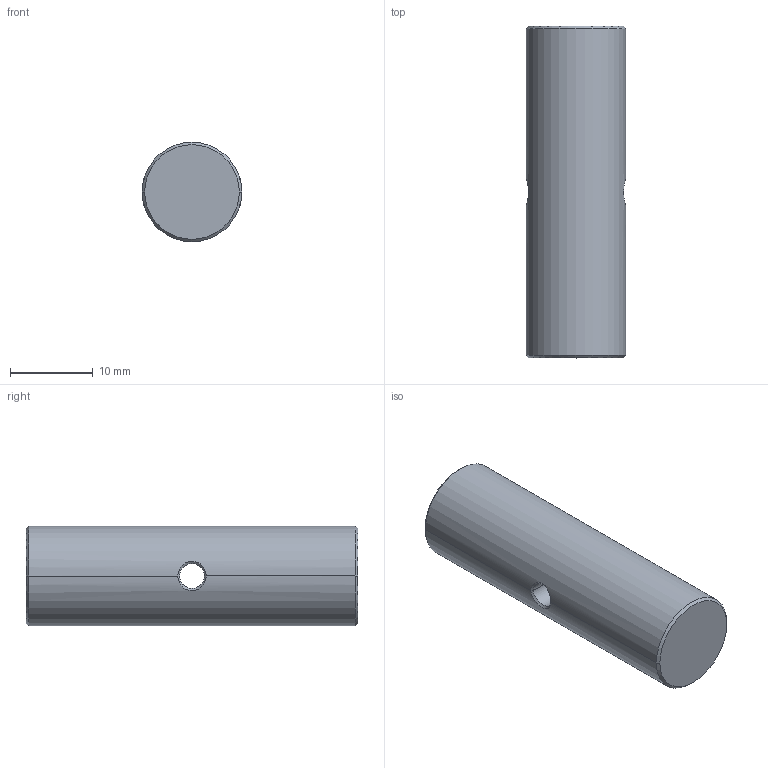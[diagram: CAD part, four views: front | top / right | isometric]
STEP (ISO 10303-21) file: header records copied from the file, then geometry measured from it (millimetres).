
FILE_DESCRIPTION((''),'2;1');
FILE_NAME('PCA40-M4','2020-12-11T',('Administrator'),(''),'CREO PARAMETRIC BY PTC INC, 2015290','CREO PARAMETRIC BY PTC INC, 2015290','');
FILE_SCHEMA(('CONFIG_CONTROL_DESIGN'));
Length unit declared in the file: millimetre
Products named in the file (1): PCA40-M4
Bounding box: 12 x 40 x 12 mm (x, y, z)
Volume: 4357.3 mm3; surface area: 1944 mm2
Topology: 1 solids, 1 shells, 47 faces, 123 edges, 75 vertices
Faces by surface type: cylinder 23, bspline 14, cone 8, plane 2
Entity records: 3502 total; most frequent: CARTESIAN_POINT 2476, ORIENTED_EDGE 242, DIRECTION 139, EDGE_CURVE 121, VERTEX_POINT 75, B_SPLINE_CURVE_WITH_KNOTS 62, EDGE_LOOP 48, AXIS2_PLACEMENT_3D 47
